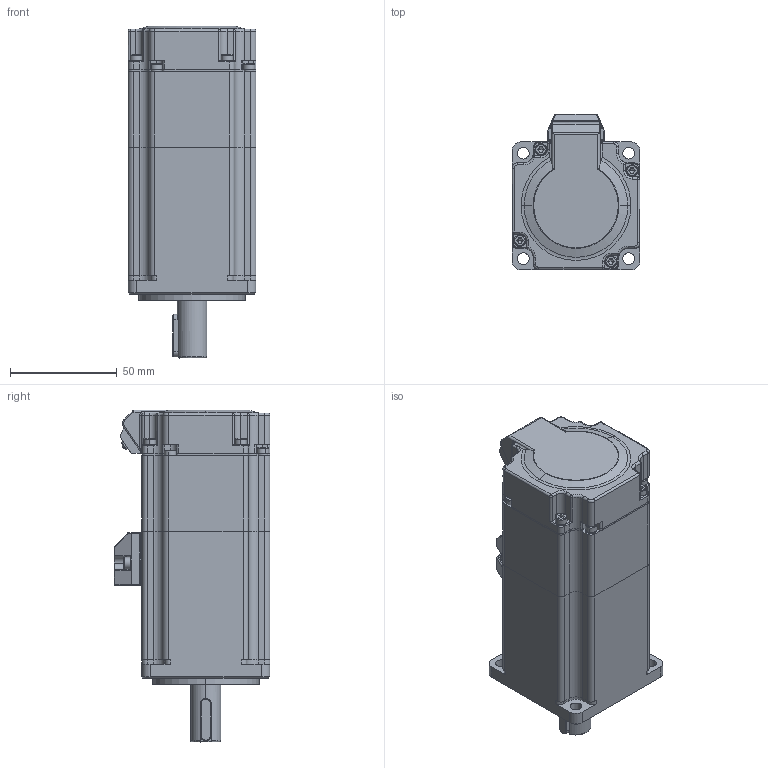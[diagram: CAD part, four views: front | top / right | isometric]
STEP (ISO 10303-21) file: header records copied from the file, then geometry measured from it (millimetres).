
FILE_DESCRIPTION (( 'STEP AP203' ), '1' );
FILE_NAME ('BMR-Z04B06030-´ø±§Õ¢.STEP', '2024-03-23T09:25:07', ( '' ), ( '' ), 'SwSTEP 2.0', 'SolidWorks 2018', '' );
FILE_SCHEMA (( 'CONFIG_CONTROL_DESIGN' ));
Length unit declared in the file: millimetre
Products named in the file (1): BMR-Z04B06030-湍惕掅
Bounding box: 60 x 73 x 155.7 mm (x, y, z)
Volume: 178919.4 mm3; surface area: 101554.7 mm2
Topology: 25 solids, 25 shells, 1257 faces, 3088 edges, 1914 vertices
Faces by surface type: cylinder 512, plane 484, cone 129, torus 106, sphere 18, bspline 8
Entity records: 37625 total; most frequent: CARTESIAN_POINT 7145, DIRECTION 6825, ORIENTED_EDGE 6076, EDGE_CURVE 3038, AXIS2_PLACEMENT_3D 2657, VERTEX_POINT 1914, LINE 1511, VECTOR 1511
